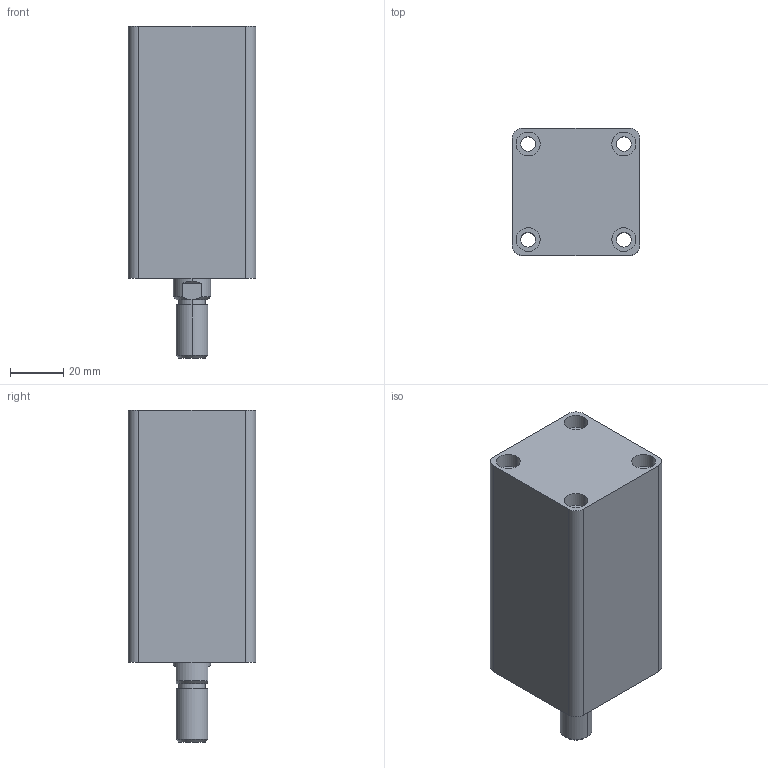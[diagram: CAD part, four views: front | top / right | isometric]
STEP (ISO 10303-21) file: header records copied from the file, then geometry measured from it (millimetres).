
FILE_DESCRIPTION (( 'STEP AP203' ), '1' );
FILE_NAME ('HTB-SD25-50W.STEP', '2019-10-07T06:04:07', ( '微软用户' ), ( '微软中国' ), 'SwSTEP 2.0', 'SolidWorks 2012', '' );
FILE_SCHEMA (( 'CONFIG_CONTROL_DESIGN' ));
Length unit declared in the file: millimetre
Products named in the file (3): HTB-SD25-50掛极; HTB-SD25-50W活塞杆; HTB-SD25-50W
Assembly tree (2 placements, depth 2):
  HTB-SD25-50W
    HTB-SD25-50掛极
    HTB-SD25-50W活塞杆
Bounding box: 48 x 48 x 125 mm (x, y, z)
Volume: 192203.4 mm3; surface area: 42803.3 mm2
Topology: 2 solids, 2 shells, 87 faces, 188 edges, 122 vertices
Faces by surface type: cylinder 44, plane 29, cone 8, torus 6
Entity records: 2759 total; most frequent: DIRECTION 476, CARTESIAN_POINT 446, ORIENTED_EDGE 376, AXIS2_PLACEMENT_3D 204, EDGE_CURVE 188, VERTEX_POINT 122, EDGE_LOOP 112, CIRCLE 112
